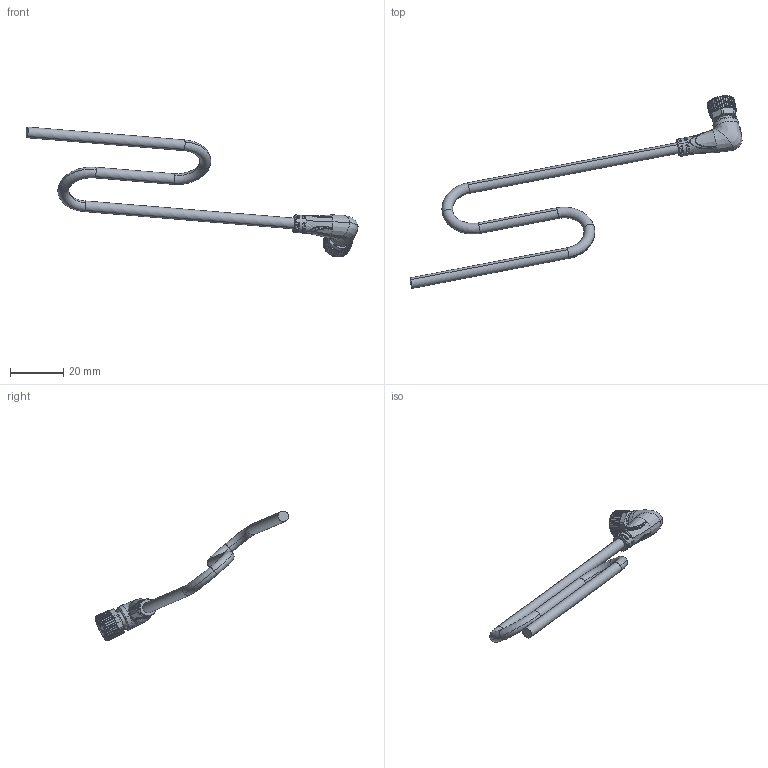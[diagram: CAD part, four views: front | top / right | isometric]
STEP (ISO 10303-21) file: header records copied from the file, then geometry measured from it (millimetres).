
FILE_DESCRIPTION (( 'STEP AP214' ), '1' );
FILE_NAME ('M8俔芛4P譫傷.STEP', '2024-12-19T01:27:36', ( 'Windows User' ), ( 'P R C' ), 'SwSTEP 2.0', 'SolidWorks 2023', '' );
FILE_SCHEMA (( 'AUTOMOTIVE_DESIGN' ));
Length unit declared in the file: millimetre
Products named in the file (7): 密封圈; SD1100822-M8滚花螺母（内螺纹对边9）-B0 带退刀槽; 导线_φ4.0; SD1705297-M8母端插针-A0; M8弯头4P母端; SD1705295-M8-4P母端插座-A0; M8-90°包胶-A1_4
Assembly tree (9 placements, depth 2):
  M8弯头4P母端
    M8-90°包胶-A1_4
    SD1100822-M8滚花螺母（内螺纹对边9）-B0 带退刀槽
    SD1705297-M8母端插针-A0  x4
    导线_φ4.0
    密封圈
    SD1705295-M8-4P母端插座-A0
Bounding box: 124.29 x 72.22 x 48.65 mm (x, y, z)
Volume: 4824.5 mm3; surface area: 5727.8 mm2
Topology: 9 solids, 9 shells, 1641 faces, 4397 edges, 2758 vertices
Faces by surface type: plane 691, cylinder 431, cone 247, bspline 198, torus 74
Entity records: 42796 total; most frequent: CARTESIAN_POINT 22450, ORIENTED_EDGE 4708, DIRECTION 3559, EDGE_CURVE 2354, VERTEX_POINT 1504, AXIS2_PLACEMENT_3D 1328, EDGE_LOOP 914, VECTOR 903
